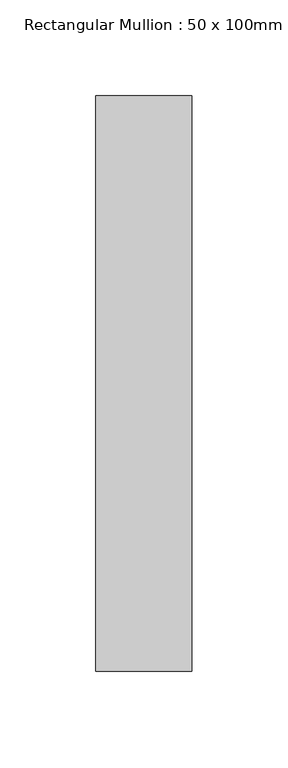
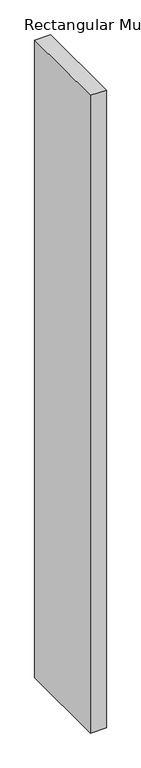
"""IFC4 building model written with IfcOpenShell, lengths in millimetres: member geometry, Rectangular Mullion : 50 x 100mm."""

from ifc_helpers import new_model, si_unit, frame, origin, place, context, project, spatial, polyline, outline, extrude, source, transform, mapped, element, save


def rectangular_mullion_50_x_100mm_9513a79f(model_context):
    return source(origin(), model_context, "Body", "SweptSolid", [
        extrude(outline(polyline([(0.0, 125.0), (0.0, -175.0), (-50.0, -175.0), (-50.0, 125.0), (0.0, 125.0)])), frame((0.0, 0.0, -2100.0), z_axis=(0.0, 0.0, 1.0), x_axis=(1.0, 0.0, 0.0)), (0.0, 0.0, 1.0), 2100.0),
    ])


if __name__ == "__main__":
    model = new_model("IFC4")
    model_context = context("Model", 3, world=origin())
    ifc_project = project(units=[si_unit("LENGTHUNIT", "METRE", prefix="MILLI")], contexts=[model_context])
    site = spatial("IfcSite", under=ifc_project)
    building = spatial("IfcBuilding", under=site)
    placement = place(None, origin())
    rectangular_mullion_50_x_100mm_shape = rectangular_mullion_50_x_100mm_9513a79f(model_context)
    element("IfcMember", 1, ObjectType="Rectangular Mullion : 50 x 100mm", at=placement, inside=building, context=model_context, shape_type="MappedRepresentation", body=[
        mapped(rectangular_mullion_50_x_100mm_shape, transform((0.0, 0.0, 0.0), x_axis=(1.0, 0.0, 0.0), y_axis=(0.0, 1.0, 0.0), z_axis=(0.0, 0.0, 1.0))),
    ])
    save(model, "model.ifc")
